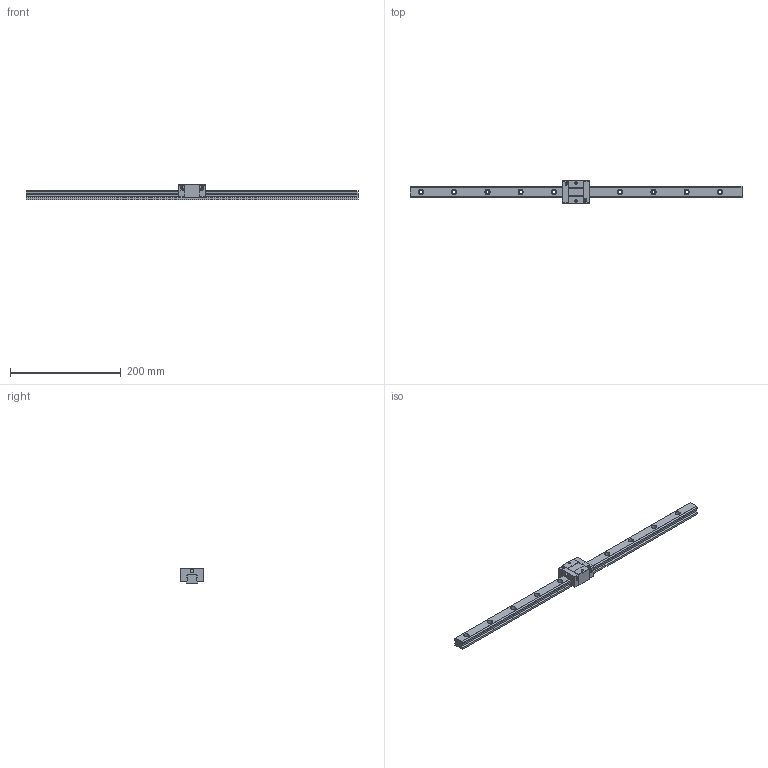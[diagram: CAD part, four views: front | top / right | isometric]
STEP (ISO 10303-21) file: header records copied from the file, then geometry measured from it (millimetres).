
FILE_DESCRIPTION (( 'STEP AP203' ), '1' );
FILE_NAME ('SRS20VS-XNC.STEP', '2026-02-12T07:47:30', ( '' ), ( '' ), 'SwSTEP 2.0', 'SolidWorks 2022', '' );
FILE_SCHEMA (( 'CONFIG_CONTROL_DESIGN' ));
Length unit declared in the file: millimetre
Products named in the file (1): SRS20VS-XNC
Bounding box: 600 x 42 x 28 mm (x, y, z)
Volume: 203637.1 mm3; surface area: 57312.8 mm2
Topology: 1 solids, 1 shells, 327 faces, 866 edges, 574 vertices
Faces by surface type: plane 145, cylinder 92, bspline 90
Entity records: 16723 total; most frequent: CARTESIAN_POINT 8914, ORIENTED_EDGE 1732, DIRECTION 1348, EDGE_CURVE 866, VERTEX_POINT 574, LINE 500, VECTOR 500, AXIS2_PLACEMENT_3D 424
